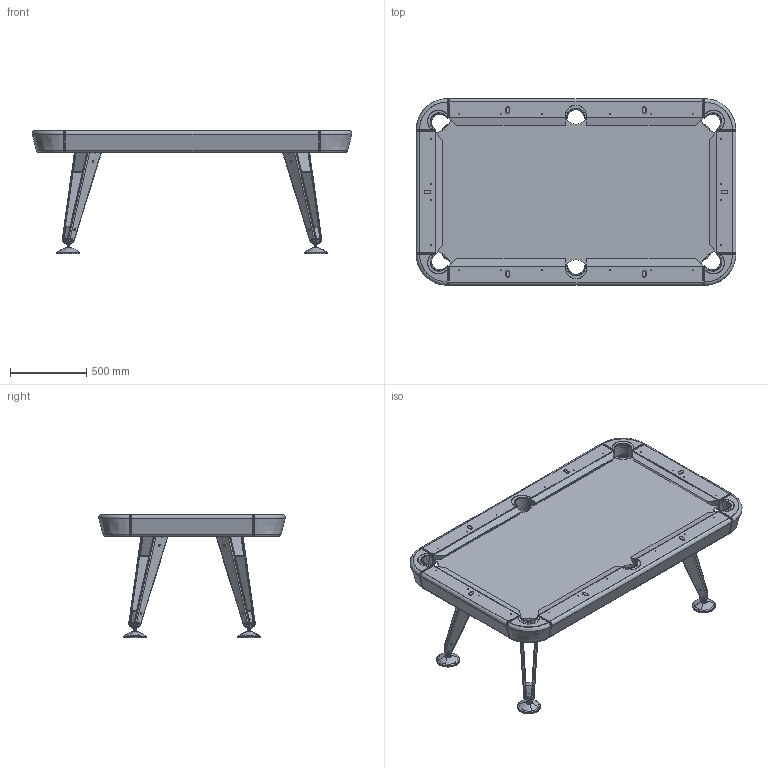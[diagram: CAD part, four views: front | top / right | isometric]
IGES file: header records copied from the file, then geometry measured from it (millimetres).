
Start section: START RECORD GO HERE.
Global section: file name: Diagonal_6ft.igs; native system: DASSAULT SYSTEMES CATIA Unofficial Packaging Version - www.3ds.com; preprocessor: UnofficialPkgVersion_5.27.0.0.10-19-2016.20.00; author: RAFA; organization: RAFA-PC; date: 20250509.114200; units: millimetre
Bounding box: 2089.96 x 1219.96 x 809.78 mm (x, y, z)
Surface area: 13155611.9 mm2 (no closed solid volume)
Topology: 0 solids, 0 shells, 3975 faces, 20058 edges, 20004 vertices
Faces by surface type: plane 2319, revolution 1090, bspline 550, extrusion 16
